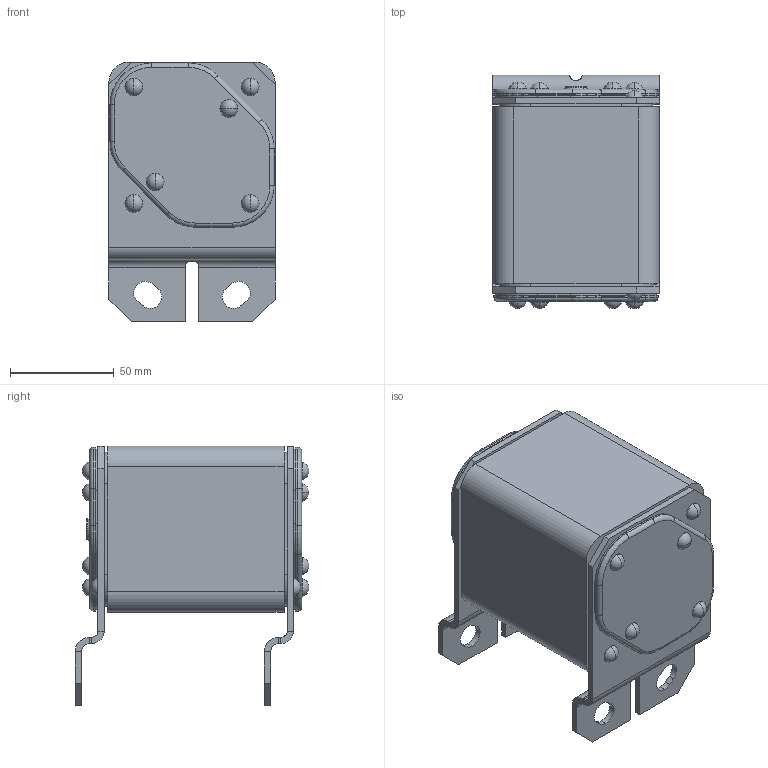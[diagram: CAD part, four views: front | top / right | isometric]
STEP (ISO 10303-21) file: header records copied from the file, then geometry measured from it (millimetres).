
FILE_DESCRIPTION (( 'STEP AP214' ), '1' );
FILE_NAME ('砎槼隰譇膻蠈錪 珫57-39680-XXXA-XXXX-忡曖.STEP', '2023-05-11T12:49:29', ( '' ), ( '' ), 'SwSTEP 2.0', 'SolidWorks 2018', '' );
FILE_SCHEMA (( 'AUTOMOTIVE_DESIGN' ));
Length unit declared in the file: millimetre
Products named in the file (1): 砎槼隰譇膻蠈錪 珫57-39680-XXXA-XXXX-忡曖
Bounding box: 80 x 112.5 x 125 mm (x, y, z)
Volume: 638282.8 mm3; surface area: 75257.1 mm2
Topology: 1 solids, 19 shells, 475 faces, 1104 edges, 696 vertices
Faces by surface type: plane 187, cylinder 180, torus 48, cone 34, sphere 24, bspline 2
Entity records: 19255 total; most frequent: CARTESIAN_POINT 2676, DIRECTION 2584, ORIENTED_EDGE 2208, EDGE_CURVE 1104, AXIS2_PLACEMENT_3D 1022, VERTEX_POINT 696, CIRCLE 548, LINE 540
